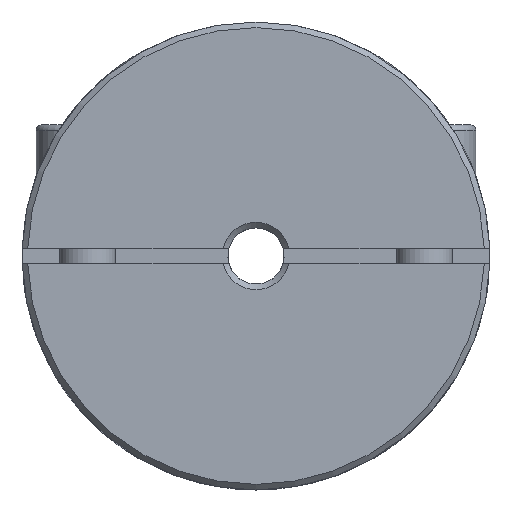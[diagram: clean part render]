
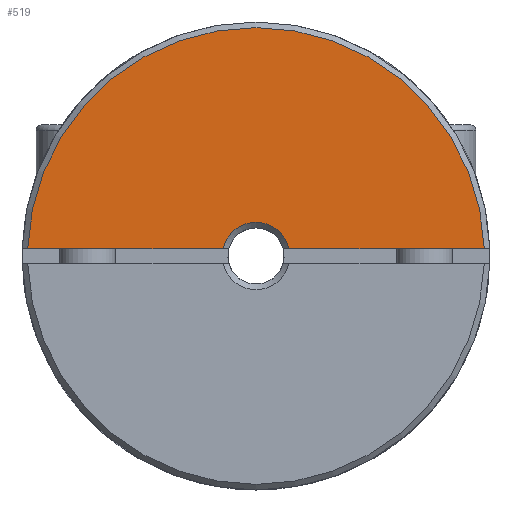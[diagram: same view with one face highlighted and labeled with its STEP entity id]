
A CAD part, left-side view. The second image highlights one B-rep face of the part: STEP entity #519.
In plain terms, the highlighted planar face has unit normal (-1, 0, 0) as drawn and (1, 0, 0) by its records, which use the part's own axes.
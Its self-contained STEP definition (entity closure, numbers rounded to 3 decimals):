
#519 = ADVANCED_FACE( '', ( #1072 ), #1073, .T. );
#1072 = FACE_OUTER_BOUND( '', #1585, .T. );
#1073 = PLANE( '', #1586 );
#1585 = EDGE_LOOP( '', ( #2431, #2432, #2433, #2434 ) );
#1586 = AXIS2_PLACEMENT_3D( '', #2435, #2436, #2437 );
#2431 = ORIENTED_EDGE( '', *, *, #2721, .F. );
#2432 = ORIENTED_EDGE( '', *, *, #2710, .T. );
#2433 = ORIENTED_EDGE( '', *, *, #2574, .F. );
#2434 = ORIENTED_EDGE( '', *, *, #2679, .T. );
#2435 = CARTESIAN_POINT( '', ( 11., 0., 12.5 ) );
#2436 = DIRECTION( '', ( 1., 0., 0. ) );
#2437 = DIRECTION( '', ( 0., 0., -1. ) );
#2574 = EDGE_CURVE( '', #2955, #2957, #2958, .T. );
#2679 = EDGE_CURVE( '', #2955, #3107, #3109, .F. );
#2710 = EDGE_CURVE( '', #3146, #2957, #3149, .T. );
#2721 = EDGE_CURVE( '', #3146, #3107, #3160, .T. );
#2955 = VERTEX_POINT( '', #3503 );
#2957 = VERTEX_POINT( '', #3508 );
#2958 = LINE( '', #3509, #3510 );
#3107 = VERTEX_POINT( '', #3739 );
#3109 = CIRCLE( '', #3744, 1.8 );
#3146 = VERTEX_POINT( '', #3783 );
#3149 = CIRCLE( '', #3789, 12.2 );
#3160 = LINE( '', #3860, #3861 );
#3503 = CARTESIAN_POINT( '', ( 11., -1.755, 0.4 ) );
#3508 = CARTESIAN_POINT( '', ( 11., -12.193, 0.4 ) );
#3509 = CARTESIAN_POINT( '', ( 11., 0., 0.4 ) );
#3510 = VECTOR( '', #4098, 1000. );
#3739 = CARTESIAN_POINT( '', ( 11., 1.755, 0.4 ) );
#3744 = AXIS2_PLACEMENT_3D( '', #4239, #4240, #4241 );
#3783 = CARTESIAN_POINT( '', ( 11., 12.193, 0.4 ) );
#3789 = AXIS2_PLACEMENT_3D( '', #4274, #4275, #4276 );
#3860 = CARTESIAN_POINT( '', ( 11., 0., 0.4 ) );
#3861 = VECTOR( '', #4283, 1000. );
#4098 = DIRECTION( '', ( 0., -1., 0. ) );
#4239 = CARTESIAN_POINT( '', ( 11., 0., 0. ) );
#4240 = DIRECTION( '', ( 1., 0., 0. ) );
#4241 = DIRECTION( '', ( 0., 0., -1. ) );
#4274 = CARTESIAN_POINT( '', ( 11., 0., 0. ) );
#4275 = DIRECTION( '', ( 1., 0., 0. ) );
#4276 = DIRECTION( '', ( 0., 0., -1. ) );
#4283 = DIRECTION( '', ( 0., -1., 0. ) );
